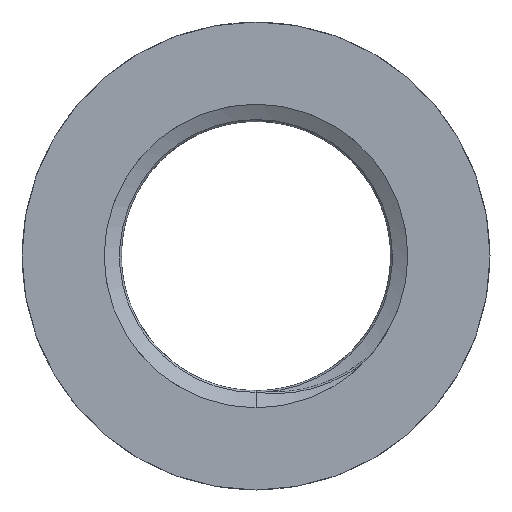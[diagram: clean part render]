
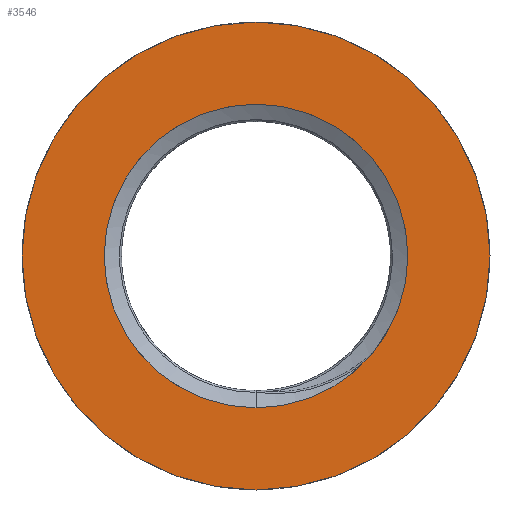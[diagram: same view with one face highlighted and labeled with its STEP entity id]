
A CAD part, front view. The second image highlights one B-rep face of the part: STEP entity #3546.
In plain terms, the highlighted planar face has unit normal (0, -1, 0).
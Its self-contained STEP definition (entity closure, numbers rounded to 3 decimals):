
#442 = DIRECTION ( 'NONE',  ( 0., 0., 1. ) ) ;
#560 = CARTESIAN_POINT ( 'NONE',  ( 0., 0., 0. ) ) ;
#648 = ORIENTED_EDGE ( 'NONE', *, *, #3674, .F. ) ;
#702 = AXIS2_PLACEMENT_3D ( 'NONE', #1099, #2397, #442 ) ;
#1099 = CARTESIAN_POINT ( 'NONE',  ( 0., 0., 0. ) ) ;
#1126 = AXIS2_PLACEMENT_3D ( 'NONE', #3872, #4197, #1276 ) ;
#1276 = DIRECTION ( 'NONE',  ( 0., 0., 1. ) ) ;
#1496 = CARTESIAN_POINT ( 'NONE',  ( 0., 0., 11.75 ) ) ;
#1997 = EDGE_LOOP ( 'NONE', ( #648 ) ) ;
#2074 = CIRCLE ( 'NONE', #3372, 7.625 ) ;
#2077 = CIRCLE ( 'NONE', #1126, 11.75 ) ;
#2153 = VERTEX_POINT ( 'NONE', #1496 ) ;
#2192 = DIRECTION ( 'NONE',  ( 0., 1., 0. ) ) ;
#2397 = DIRECTION ( 'NONE',  ( 0., 1., 0. ) ) ;
#2439 = CARTESIAN_POINT ( 'NONE',  ( 0., 0., 7.625 ) ) ;
#2456 = VERTEX_POINT ( 'NONE', #2439 ) ;
#3043 = FACE_BOUND ( 'NONE', #3263, .T. ) ;
#3209 = DIRECTION ( 'NONE',  ( 0., 0., 1. ) ) ;
#3263 = EDGE_LOOP ( 'NONE', ( #3555 ) ) ;
#3283 = EDGE_CURVE ( 'NONE', #2456, #2456, #2074, .T. ) ;
#3372 = AXIS2_PLACEMENT_3D ( 'NONE', #560, #2192, #3209 ) ;
#3546 = ADVANCED_FACE ( 'NONE', ( #3656, #3043 ), #4029, .F. ) ;
#3555 = ORIENTED_EDGE ( 'NONE', *, *, #3283, .T. ) ;
#3656 = FACE_OUTER_BOUND ( 'NONE', #1997, .T. ) ;
#3674 = EDGE_CURVE ( 'NONE', #2153, #2153, #2077, .T. ) ;
#3872 = CARTESIAN_POINT ( 'NONE',  ( 0., 0., 0. ) ) ;
#4029 = PLANE ( 'NONE',  #702 ) ;
#4197 = DIRECTION ( 'NONE',  ( 0., 1., 0. ) ) ;
